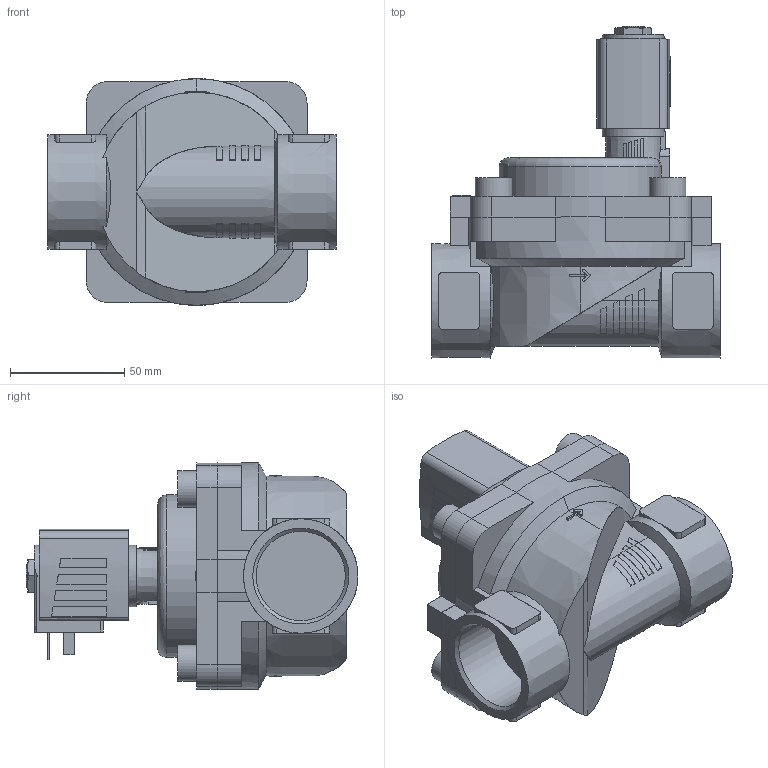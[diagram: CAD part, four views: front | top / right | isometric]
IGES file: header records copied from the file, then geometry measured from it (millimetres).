
Start section: Data from Parasolid IGES Translator 26.0.171, Copyright(c) 2006 Siemens PLM Software. All Rights Reserved.
Global section: file name: 6281-288173-2_2-Way_Solenoid_Valve__Servo-assisted__General_Purpose.igs; native system: By Siemens PLM Incorporated; preprocessor: XPlus GENERIC/IGES 26.0.171; author: Noname; organization: Noname; date: 20240904.134100; units: millimetre
Bounding box: 126 x 145 x 99 mm (x, y, z)
Surface area: 85961.9 mm2 (no closed solid volume)
Topology: 0 solids, 0 shells, 366 faces, 1962 edges, 1955 vertices
Faces by surface type: extrusion 239, revolution 127
